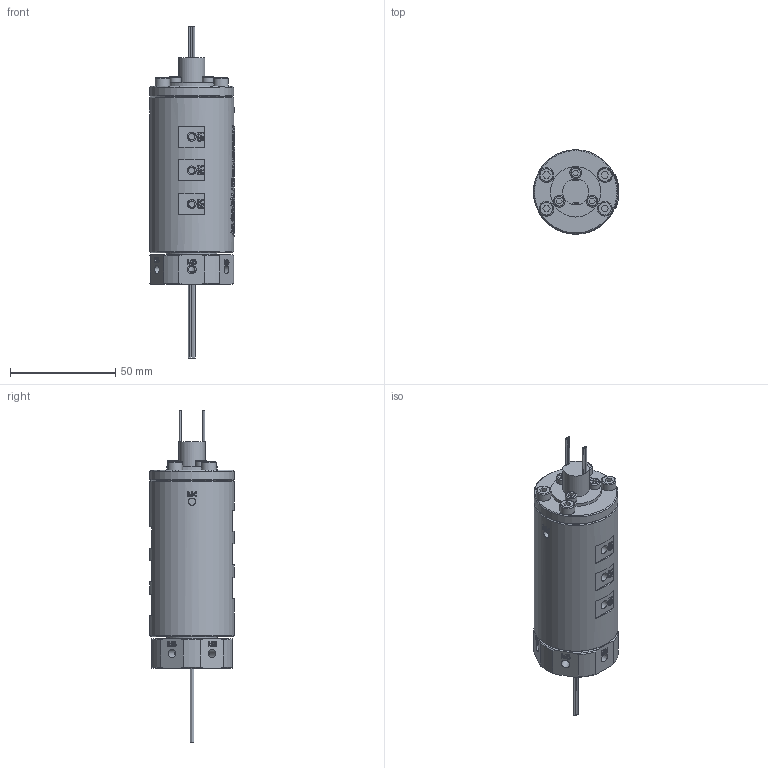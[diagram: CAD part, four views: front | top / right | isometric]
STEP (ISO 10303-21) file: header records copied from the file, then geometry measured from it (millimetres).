
FILE_DESCRIPTION(/* description */ (''),/* implementation_level */ '2;1');
FILE_NAME(/* name */ 'YQ06005-06M.stp',/* time_stamp */ '2025-09-01T15:59:59+08:00',/* author */ (''),/* organization */ (''),/* preprocessor_version */ 'ST-DEVELOPER v16.7',/* originating_system */ 'SIEMENS PLM Software NX 12.0',/* authorisation */ '');
FILE_SCHEMA (('AUTOMOTIVE_DESIGN { 1 0 10303 214 3 1 1 1 }'));
Products named in the file (1): AdmiB44865CDwd8j
Bounding box: 40.7 x 40 x 157.5 mm (x, y, z)
Volume: 116602.3 mm3; surface area: 22003.1 mm2
Topology: 1 solids, 4 shells, 1530 faces, 4164 edges, 2773 vertices
Faces by surface type: plane 671, extrusion 660, cylinder 110, bspline 61, cone 21, torus 7
Full cylindrical faces by diameter (mm): 0.8 x12, 3 x15, 3.4 x9, 4 x6, 4.1 x6, 4.2 x18, 5.5 x3, 6 x1, 7 x4, 12.4 x1, 23.9 x1, 24 x1, 32 x1, 40 x2
Entity records: 57698 total; most frequent: CARTESIAN_POINT 24974, ORIENTED_EDGE 7998, EDGE_CURVE 3999, DIRECTION 3932, B_SPLINE_CURVE_WITH_KNOTS 3373, VERTEX_POINT 2712, EDGE_LOOP 1779, VECTOR 1580
